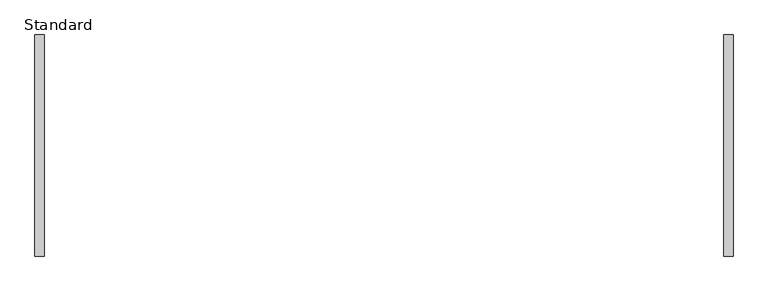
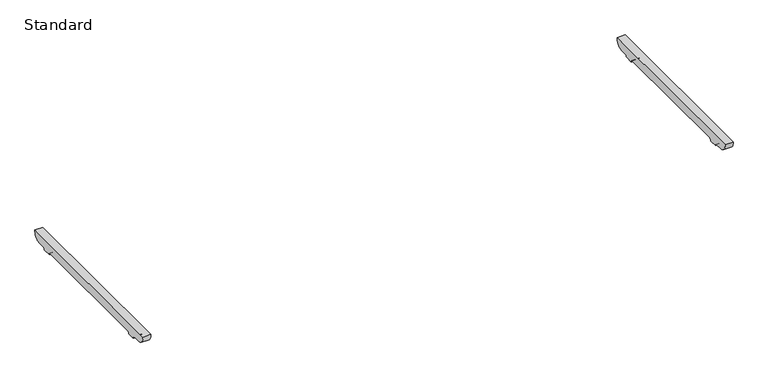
"""IFC4 building model written with IfcOpenShell, lengths in millimetres: furniture geometry, BDG_BossDesign_Tbls_AgentTables4Legs_Nested : Standard."""

from ifc_helpers import new_model, si_unit, point, frame, frame_2d, origin, place, context, project, spatial, polyline, circle_curve, trimmed, segment, composite_curve, outline, extrude, source, transform, mapped, element, save


def standard_89768995(model_context):
    return source(origin(), model_context, "Body", "SweptSolid", [
        extrude(outline(composite_curve([segment(polyline([(480.5450184, 672.0), (442.7000122, 672.0)]), True, "CONTINUOUS"), segment(trimmed(circle_curve(frame_2d((442.7000122, 660.0)), 12.0), [point((442.7000122, 672.0))], [point((430.7000122, 660.0))], True, "CARTESIAN"), True, "CONTINUOUS"), segment(polyline([(430.7000122, 660.0), (385.7000122, 660.0)]), True, "CONTINUOUS"), segment(trimmed(circle_curve(frame_2d((373.7000122, 660.0)), 12.0), [point((385.7000122, 660.0))], [point((373.7000122, 672.0))], True, "CARTESIAN"), True, "CONTINUOUS"), segment(polyline([(373.7000122, 672.0), (-373.7000122, 672.0)]), True, "CONTINUOUS"), segment(trimmed(circle_curve(frame_2d((-373.7000122, 660.0)), 12.0), [point((-373.7000122, 672.0))], [point((-385.7000122, 660.0))], True, "CARTESIAN"), True, "CONTINUOUS"), segment(polyline([(-385.7000122, 660.0), (-430.7000122, 660.0)]), True, "CONTINUOUS"), segment(trimmed(circle_curve(frame_2d((-442.7000122, 660.0)), 12.0), [point((-430.7000122, 660.0))], [point((-442.7000122, 672.0))], True, "CARTESIAN"), True, "CONTINUOUS"), segment(polyline([(-442.7000122, 672.0), (-480.5450184, 672.0)]), True, "CONTINUOUS"), segment(trimmed(circle_curve(frame_2d((-478.2220439, 716.5514119)), 44.6119324), [point((-480.5450184, 672.0))], [point((-522.5, 722.0))], False, "CARTESIAN"), True, "CONTINUOUS"), segment(polyline([(-522.5, 722.0), (522.5, 722.0)]), True, "CONTINUOUS"), segment(trimmed(circle_curve(frame_2d((478.2220439, 716.5514119)), 44.6119324), [point((522.5, 722.0))], [point((480.5450184, 672.0))], False, "CARTESIAN"), True, "CONTINUOUS")], self_intersect=False)), frame((1605.0, 0.0, 0.0), z_axis=(1.0, 0.0, 0.0), x_axis=(0.0, 1.0, 0.0)), (0.0, 0.0, 1.0), 45.0),
        extrude(outline(composite_curve([segment(polyline([(480.5450184, 672.0), (442.7000122, 672.0)]), True, "CONTINUOUS"), segment(trimmed(circle_curve(frame_2d((442.7000122, 660.0)), 12.0), [point((442.7000122, 672.0))], [point((430.7000122, 660.0))], True, "CARTESIAN"), True, "CONTINUOUS"), segment(polyline([(430.7000122, 660.0), (385.7000122, 660.0)]), True, "CONTINUOUS"), segment(trimmed(circle_curve(frame_2d((373.7000122, 660.0)), 12.0), [point((385.7000122, 660.0))], [point((373.7000122, 672.0))], True, "CARTESIAN"), True, "CONTINUOUS"), segment(polyline([(373.7000122, 672.0), (-373.7000122, 672.0)]), True, "CONTINUOUS"), segment(trimmed(circle_curve(frame_2d((-373.7000122, 660.0)), 12.0), [point((-373.7000122, 672.0))], [point((-385.7000122, 660.0))], True, "CARTESIAN"), True, "CONTINUOUS"), segment(polyline([(-385.7000122, 660.0), (-430.7000122, 660.0)]), True, "CONTINUOUS"), segment(trimmed(circle_curve(frame_2d((-442.7000122, 660.0)), 12.0), [point((-430.7000122, 660.0))], [point((-442.7000122, 672.0))], True, "CARTESIAN"), True, "CONTINUOUS"), segment(polyline([(-442.7000122, 672.0), (-480.5450184, 672.0)]), True, "CONTINUOUS"), segment(trimmed(circle_curve(frame_2d((-478.2220439, 716.5514119)), 44.6119324), [point((-480.5450184, 672.0))], [point((-522.5, 722.0))], False, "CARTESIAN"), True, "CONTINUOUS"), segment(polyline([(-522.5, 722.0), (522.5, 722.0)]), True, "CONTINUOUS"), segment(trimmed(circle_curve(frame_2d((478.2220439, 716.5514119)), 44.6119324), [point((522.5, 722.0))], [point((480.5450184, 672.0))], False, "CARTESIAN"), True, "CONTINUOUS")], self_intersect=False)), frame((-1650.0, 0.0, 0.0), z_axis=(1.0, 0.0, 0.0), x_axis=(0.0, 1.0, 0.0)), (0.0, 0.0, 1.0), 45.0),
    ])


if __name__ == "__main__":
    model = new_model("IFC4")
    model_context = context("Model", 3, world=origin())
    ifc_project = project(units=[si_unit("LENGTHUNIT", "METRE", prefix="MILLI")], contexts=[model_context])
    site = spatial("IfcSite", under=ifc_project)
    building = spatial("IfcBuilding", under=site)
    placement = place(None, origin())
    standard_shape = standard_89768995(model_context)
    element("IfcFurniture", 1, ObjectType="BDG_BossDesign_Tbls_AgentTables4Legs_Nested : Standard", at=placement, inside=building, context=model_context, shape_type="MappedRepresentation", body=[
        mapped(standard_shape, transform((0.0, 0.0, 0.0), x_axis=(1.0, 0.0, 0.0), y_axis=(0.0, 1.0, 0.0), z_axis=(0.0, 0.0, 1.0))),
    ])
    save(model, "model.ifc")
